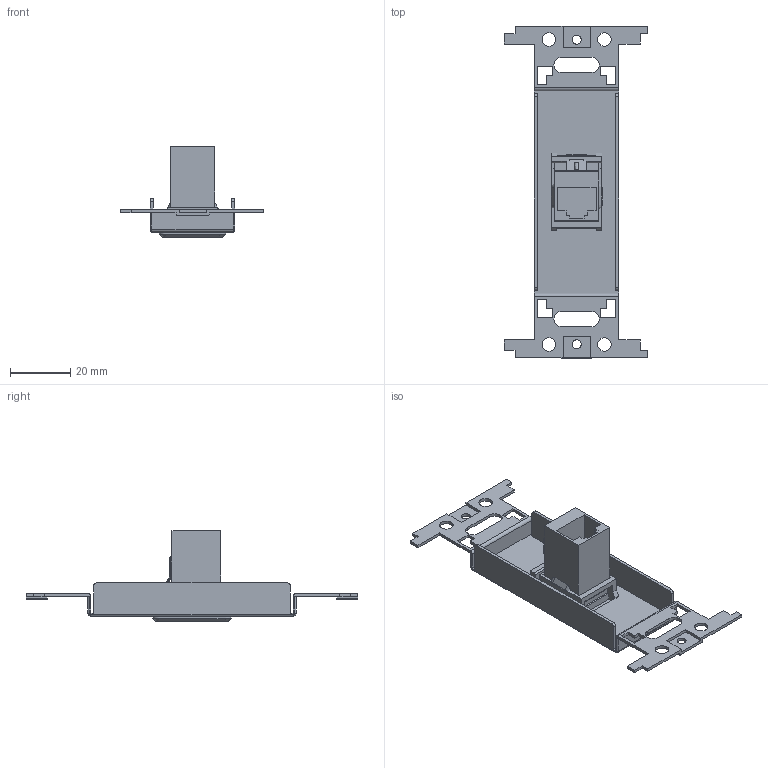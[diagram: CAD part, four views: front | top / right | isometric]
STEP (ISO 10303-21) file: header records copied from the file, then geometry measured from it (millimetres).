
FILE_DESCRIPTION(('FreeCAD Model'),'2;1');
FILE_NAME('Open CASCADE Shape Model','2026-09-10T14:17:31',(''),(''), 'Open CASCADE STEP processor 7.8','FreeCAD','Unknown');
FILE_SCHEMA(('AUTOMOTIVE_DESIGN { 1 0 10303 214 1 1 1 1 }'));
Length unit declared in the file: millimetre
Products named in the file (5): CMW_SIC6AS_XX; P_200795_XX; P-200795; 3013BUS12xx; TB-031_SY-350SG8M-10G_SD
Assembly tree (4 placements, depth 3):
  CMW_SIC6AS_XX
    P_200795_XX
      P-200795
      3013BUS12xx
    TB-031_SY-350SG8M-10G_SD
Bounding box: 47.6 x 110 x 30 mm (x, y, z)
Volume: 10048.7 mm3; surface area: 14622.9 mm2
Topology: 3 solids, 3 shells, 320 faces, 911 edges, 594 vertices
Faces by surface type: bspline 200, plane 88, cylinder 28, torus 4
Full cylindrical faces by diameter (mm): 3 x2, 4.5 x4
Entity records: 13892 total; most frequent: CARTESIAN_POINT 7104, ORIENTED_EDGE 1818, EDGE_CURVE 907, DIRECTION 657, VERTEX_POINT 594, B_SPLINE_CURVE_WITH_KNOTS 560, FACE_BOUND 355, EDGE_LOOP 355
